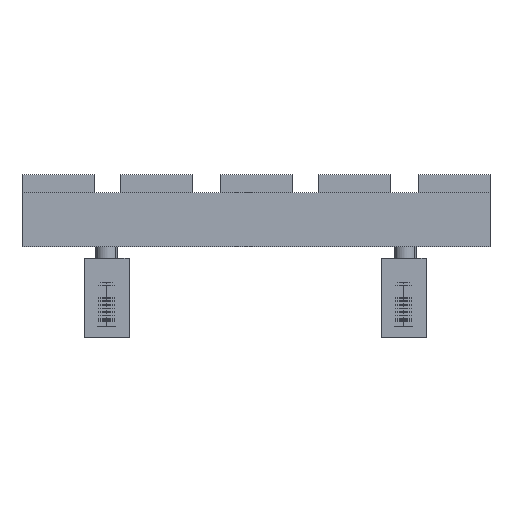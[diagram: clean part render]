
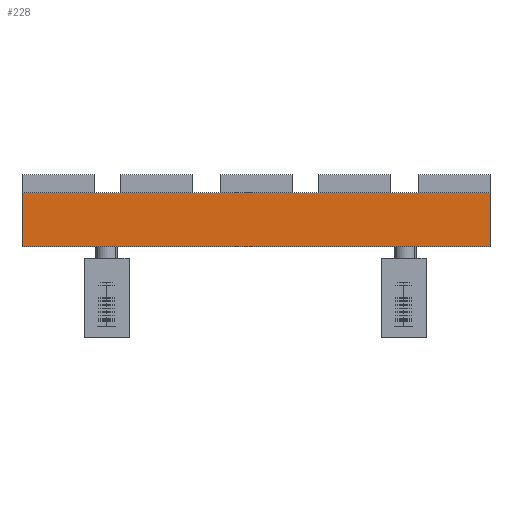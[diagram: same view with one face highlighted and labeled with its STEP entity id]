
A CAD part, front view. The second image highlights one B-rep face of the part: STEP entity #228.
In plain terms, the highlighted planar face has unit normal (0, -1, 0).
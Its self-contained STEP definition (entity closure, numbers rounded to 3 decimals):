
#228 = ADVANCED_FACE ( 'NONE', ( #949 ), #3896, .F. ) ;
#628 = EDGE_LOOP ( 'NONE', ( #3139, #3159, #3131, #3126 ) ) ;
#949 = FACE_OUTER_BOUND ( 'NONE', #628, .T. ) ;
#1221 = LINE ( 'NONE', #2101, #1222 ) ;
#1222 = VECTOR ( 'NONE', #2102, 1000. ) ;
#1230 = LINE ( 'NONE', #2116, #1231 ) ;
#1231 = VECTOR ( 'NONE', #2117, 1000. ) ;
#1239 = LINE ( 'NONE', #2127, #1240 ) ;
#1240 = VECTOR ( 'NONE', #2128, 1000. ) ;
#1241 = LINE ( 'NONE', #2129, #1242 ) ;
#1242 = VECTOR ( 'NONE', #2130, 1000. ) ;
#1539 = EDGE_CURVE ( 'NONE', #3208, #3206, #1221, .T. ) ;
#1545 = EDGE_CURVE ( 'NONE', #3206, #3223, #1230, .T. ) ;
#1550 = EDGE_CURVE ( 'NONE', #3208, #3226, #1239, .T. ) ;
#1551 = EDGE_CURVE ( 'NONE', #3226, #3223, #1241, .T. ) ;
#1775 = AXIS2_PLACEMENT_3D ( 'NONE', #3897, #3898, #3899 ) ;
#2101 = CARTESIAN_POINT ( 'NONE',  ( 0., 0., -30. ) ) ;
#2102 = DIRECTION ( 'NONE',  ( -1., 0., 0. ) ) ;
#2116 = CARTESIAN_POINT ( 'NONE',  ( 0., 0., -30. ) ) ;
#2117 = DIRECTION ( 'NONE',  ( 0., 0., 1. ) ) ;
#2127 = CARTESIAN_POINT ( 'NONE',  ( 260., 0., -30. ) ) ;
#2128 = DIRECTION ( 'NONE',  ( 0., 0., 1. ) ) ;
#2129 = CARTESIAN_POINT ( 'NONE',  ( 0., 0., 0. ) ) ;
#2130 = DIRECTION ( 'NONE',  ( -1., 0., 0. ) ) ;
#2517 = CARTESIAN_POINT ( 'NONE',  ( 0., 0., -30. ) ) ;
#2519 = CARTESIAN_POINT ( 'NONE',  ( 260., 0., -30. ) ) ;
#2534 = CARTESIAN_POINT ( 'NONE',  ( 0., 0., 0. ) ) ;
#2537 = CARTESIAN_POINT ( 'NONE',  ( 260., 0., 0. ) ) ;
#3126 = ORIENTED_EDGE ( 'NONE', *, *, #1550, .T. ) ;
#3131 = ORIENTED_EDGE ( 'NONE', *, *, #1539, .F. ) ;
#3139 = ORIENTED_EDGE ( 'NONE', *, *, #1551, .T. ) ;
#3159 = ORIENTED_EDGE ( 'NONE', *, *, #1545, .F. ) ;
#3206 = VERTEX_POINT ( 'NONE', #2517 ) ;
#3208 = VERTEX_POINT ( 'NONE', #2519 ) ;
#3223 = VERTEX_POINT ( 'NONE', #2534 ) ;
#3226 = VERTEX_POINT ( 'NONE', #2537 ) ;
#3896 = PLANE ( 'NONE',  #1775 ) ;
#3897 = CARTESIAN_POINT ( 'NONE',  ( 0., 0., -30. ) ) ;
#3898 = DIRECTION ( 'NONE',  ( 0., 1., 0. ) ) ;
#3899 = DIRECTION ( 'NONE',  ( 0., 0., 1. ) ) ;
